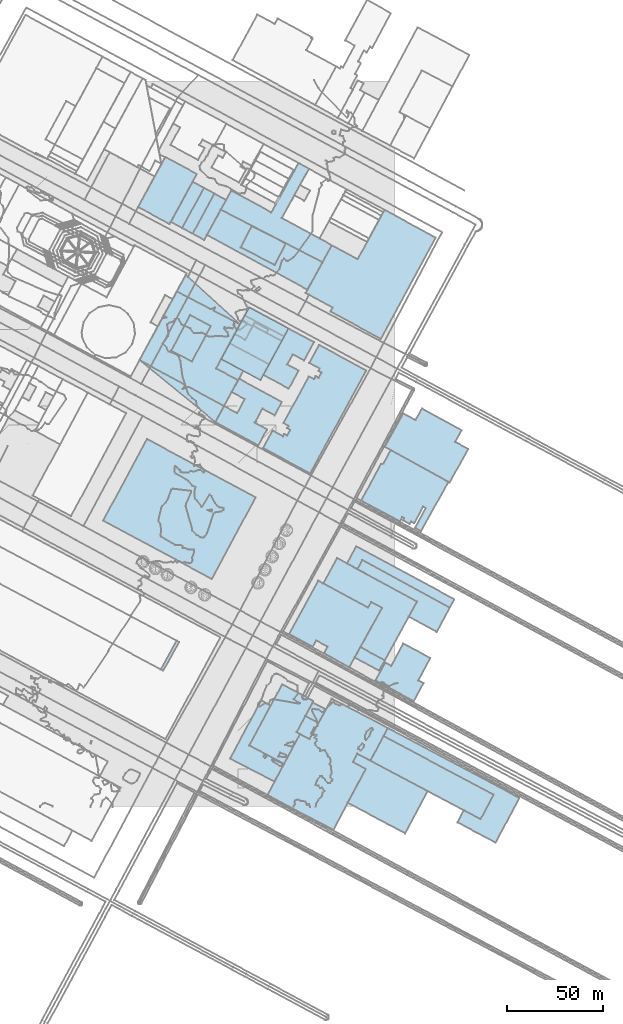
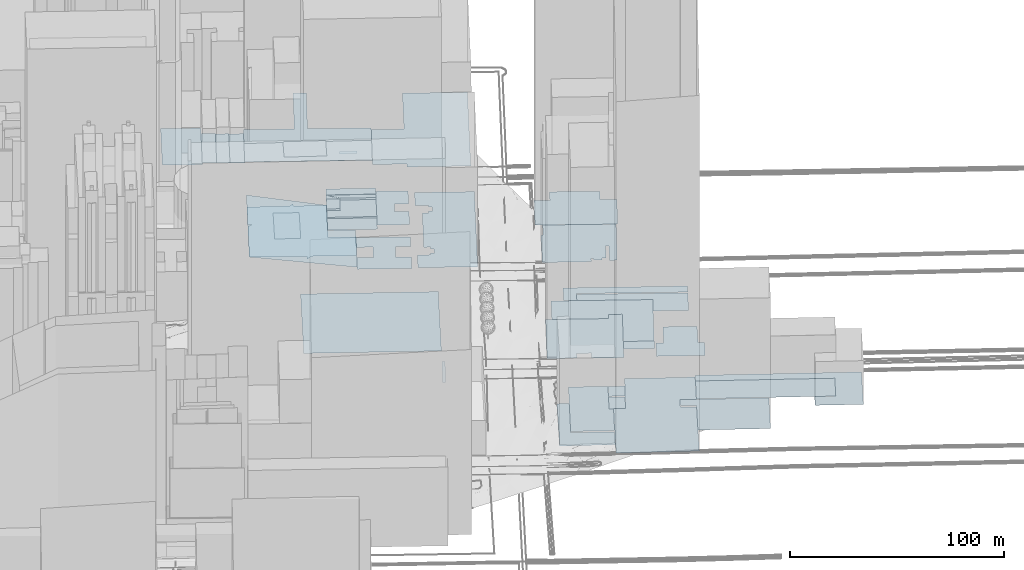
# Not in any storey, part 12 of 76: 39 footings.
"""IFC2X3 model written with IfcOpenShell, lengths in metres."""

from ifc_helpers import new_model, si_unit, frame, origin_with_axes, place, context, subcontext, project, faceted_brep, element, save


model = new_model("IFC2X3")

# Units and contexts
model_context = context("Model", 3, precision=1e-05, world=origin_with_axes())
body_context = subcontext(model_context, "Body", "Model", "MODEL_VIEW")
ifc_project = project(units=[si_unit("AREAUNIT", "SQUARE_METRE"), si_unit("LENGTHUNIT", "METRE")], contexts=[model_context])

# Footings
footing_1_placement = place(None, frame((366.2645429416, 36.6542156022, 20.5453743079), z_axis=(0.0, 0.0, 1.0), x_axis=(1.0, 0.0, 0.0)))
element("IfcFooting", 1, at=footing_1_placement, Name="Sol 0", PredefinedType="STRIP_FOOTING", context=body_context, shape_type="Brep", body=[
    faceted_brep([(57.6510256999, -30.6476367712, 0.0), (0.0, 0.0, 0.0), (2.2468139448, 4.2339315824, 0.0), (38.741565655, -45.1344526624, 0.0), (41.9344578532, -38.7800531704, 0.0), (50.7770092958, -43.4731624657, 0.0), (71.0847208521, -32.3451003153, 0.0), (58.6609342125, -55.7269742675, 0.0)], [[[0, 1, 2]], [[3, 4, 5]], [[0, 2, 6]], [[7, 3, 5]], [[0, 6, 7]], [[7, 5, 0]]]),
])
footing_2_placement = place(None, frame((351.223740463, 77.768312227, 19.2455414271), z_axis=(0.0, 0.0, 1.0), x_axis=(1.0, 0.0, 0.0)))
element("IfcFooting", 2, at=footing_2_placement, Name="Sol 0", PredefinedType="STRIP_FOOTING", context=body_context, shape_type="Brep", body=[
    faceted_brep([(12.6918312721, -6.868784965, 0.0), (0.0, 0.0, 0.0), (2.9670376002, 5.4524630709, 0.0), (15.6589919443, -1.4274175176, 0.0)], [[[0, 1, 2]], [[2, 3, 0]]]),
])
footing_3_placement = place(None, frame((362.0676322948, 65.7598579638, 18.6080020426), z_axis=(0.0, 0.0, 1.0), x_axis=(1.0, 0.0, 0.0)))
element("IfcFooting", 3, at=footing_3_placement, Name="Sol 0", PredefinedType="STRIP_FOOTING", context=body_context, shape_type="Brep", body=[
    faceted_brep([(20.0566144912, -10.8019749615, 0.0), (0.0, 0.0, 0.0), (5.0818940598, 9.4184075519, 0.0), (22.3613697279, 0.0495845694, 0.0), (25.0968062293, -1.4284483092, 0.0), (14.5135056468, 19.3648949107, 0.0), (28.6575999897, 11.7470203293, 0.0), (8.2419351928, 7.7232700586, 0.0)], [[[0, 1, 2]], [[3, 4, 0]], [[5, 6, 3]], [[0, 2, 7]], [[5, 3, 0]], [[0, 7, 5]]]),
])
footing_4_placement = place(None, frame((347.1381641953, 127.0369642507, 18.5508047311), z_axis=(0.0, 0.0, 1.0), x_axis=(1.0, 0.0, 0.0)))
element("IfcFooting", 4, at=footing_4_placement, Name="Sol 0", PredefinedType="STRIP_FOOTING", context=body_context, shape_type="Brep", body=[
    faceted_brep([(5.3954967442, -3.0124802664, 0.0), (0.0, 0.0, 0.0), (4.9095321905, 8.9945052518, 0.0), (56.1693942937, -18.7523097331, 0.0), (53.8061372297, -23.131939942, 0.0), (8.0571999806, 1.8369054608, 0.0)], [[[0, 1, 2]], [[3, 4, 5]], [[5, 0, 2]], [[2, 3, 5]]]),
])
footing_5_placement = place(None, frame((352.5336609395, 124.0244839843, 18.1637870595), z_axis=(0.0, 0.0, 1.0), x_axis=(1.0, 0.0, 0.0)))
element("IfcFooting", 5, at=footing_5_placement, Name="Sol 0", PredefinedType="STRIP_FOOTING", context=body_context, shape_type="Brep", body=[
    faceted_brep([(31.2631371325, -16.9997120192, 0.0), (0.0, 0.0, 0.0), (2.6617032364, 4.8493857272, 0.0), (41.5765562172, -32.7446614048, 0.0), (26.9895697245, -24.7877841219, 0.0), (48.4106404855, -20.1194596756, 0.0)], [[[0, 1, 2]], [[3, 4, 0]], [[0, 2, 5]], [[5, 3, 0]]]),
])
footing_6_placement = place(None, frame((334.7408311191, 116.6007819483, 18.3898649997), z_axis=(0.0, 0.0, 1.0), x_axis=(1.0, 0.0, 0.0)))
element("IfcFooting", 6, at=footing_6_placement, Name="Sol 0", PredefinedType="STRIP_FOOTING", context=body_context, shape_type="Brep", body=[
    faceted_brep([(23.4383723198, -12.7055475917, 0.0), (0.0, 0.0, 0.0), (7.2237486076, 13.24030801, 0.0), (32.1419012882, -40.259887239, 0.0), (19.4499469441, -33.3800066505, 0.0), (30.6991136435, -12.7874983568, 0.0), (25.0583062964, -9.7334756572, 0.0), (49.0559669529, -9.5760099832, 0.0)], [[[0, 1, 2]], [[3, 4, 5]], [[6, 0, 2]], [[7, 3, 5]], [[6, 2, 7]], [[7, 5, 6]]]),
])
footing_7_placement = place(None, frame((316.8661601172, 90.1024902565, 18.3898649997), z_axis=(0.0, 0.0, 1.0), x_axis=(1.0, 0.0, 0.0)))
element("IfcFooting", 7, at=footing_7_placement, Name="Sol 0", PredefinedType="STRIP_FOOTING", context=body_context, shape_type="Brep", body=[
    faceted_brep([(12.2588560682, -6.6629415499, 0.0), (0.0, 0.0, 0.0), (15.300279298, 27.9227073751, 0.0), (31.5123618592, -17.3744372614, 0.0), (18.1999973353, -10.1353758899, 0.0), (20.1343500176, -6.6156371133, 0.0), (42.9329772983, 16.7648160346, 0.0), (48.5737846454, 13.710793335, 0.0), (14.07724135, -3.3332932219, 0.0), (41.3130433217, 13.7927441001, 0.0)], [[[0, 1, 2]], [[3, 4, 5]], [[6, 7, 3]], [[8, 0, 2]], [[9, 6, 3]], [[8, 2, 9]], [[9, 3, 5]], [[5, 8, 9]]]),
])
footing_8_placement = place(None, frame((325.3175902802, 47.212952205, 19.8238031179), z_axis=(0.0, 0.0, 1.0), x_axis=(1.0, 0.0, 0.0)))
element("IfcFooting", 8, at=footing_8_placement, Name="Sol 0", PredefinedType="STRIP_FOOTING", context=body_context, shape_type="Brep", body=[
    faceted_brep([(6.8126112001, -3.6399257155, 0.0), (0.0, 0.0, 0.0), (3.893923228, 7.050867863, 0.0), (10.7830119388, 3.3674274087, 0.0)], [[[0, 1, 2]], [[2, 3, 0]]]),
])
footing_9_placement = place(None, frame((320.7317155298, 38.6885317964, 19.3320157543), z_axis=(0.0, 0.0, 1.0), x_axis=(1.0, 0.0, 0.0)))
element("IfcFooting", 9, at=footing_9_placement, Name="Sol 0", PredefinedType="STRIP_FOOTING", context=body_context, shape_type="Brep", body=[
    faceted_brep([(6.8210570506, -3.6398316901, 0.0), (0.0, 0.0, 0.0), (4.5858747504, 8.5244204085, 0.0), (11.3984859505, 4.884494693, 0.0)], [[[0, 1, 2]], [[2, 3, 0]]]),
])
footing_10_placement = place(None, frame((295.9848400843, 31.8056900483, 19.3320157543), z_axis=(0.0, 0.0, 1.0), x_axis=(1.0, 0.0, 0.0)))
element("IfcFooting", 10, at=footing_10_placement, Name="Sol 0", PredefinedType="STRIP_FOOTING", context=body_context, shape_type="Brep", body=[
    faceted_brep([(18.152605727, -9.6807885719, 0.0), (0.0, 0.0, 0.0), (17.2118998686, 31.9639296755, 0.0), (24.7468754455, 6.8828417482, 0.0), (26.5646548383, 5.9159065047, 0.0), (33.5466758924, 23.2501167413, 0.0)], [[[0, 1, 2]], [[3, 4, 0]], [[2, 5, 3]], [[3, 0, 2]]]),
])
footing_11_placement = place(None, frame((286.0454970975, 24.8510106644, 18.703520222), z_axis=(0.0, 0.0, 1.0), x_axis=(1.0, 0.0, 0.0)))
element("IfcFooting", 11, at=footing_11_placement, Name="Sol 0", PredefinedType="STRIP_FOOTING", context=body_context, shape_type="Brep", body=[
    faceted_brep([(28.0919487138, -2.7261091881, 0.0), (23.1269540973, -12.0431954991, 0.0), (0.0, 0.0, 0.0), (16.1055235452, 30.5632428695, 0.0), (21.1440946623, 27.7575168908, 0.0), (9.9393429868, 6.9546793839, 0.0)], [[[0, 1, 2]], [[3, 4, 5]], [[5, 0, 2]], [[2, 3, 5]]]),
])
footing_12_placement = place(None, frame((305.3985923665, 5.5918232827, 19.5472220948), z_axis=(0.0, 0.0, 1.0), x_axis=(1.0, 0.0, 0.0)))
element("IfcFooting", 12, at=footing_12_placement, Name="Sol 0", PredefinedType="STRIP_FOOTING", context=body_context, shape_type="Brep", body=[
    faceted_brep([(34.6180123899, -17.9933581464, 0.0), (0.0, 0.0, 0.0), (17.1509025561, 32.1297732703, 0.0), (44.841101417, 17.5086047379, 0.0), (51.5516846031, 13.93412623, 0.0), (63.1127645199, 35.296323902, 0.0), (53.9919956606, 18.2258198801, 0.0), (47.1626007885, 21.8544235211, 0.0), (22.1541802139, 29.4568768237, 0.0), (33.8269836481, 50.6537947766, 0.0)], [[[0, 1, 2]], [[3, 4, 0]], [[5, 6, 7]], [[8, 9, 5]], [[0, 2, 8]], [[8, 5, 7]], [[3, 0, 8]], [[8, 7, 3]]]),
])
footing_13_placement = place(None, frame((347.4572556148, 1.796092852, 20.3614833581), z_axis=(0.0, 0.0, 1.0), x_axis=(1.0, 0.0, 0.0)))
element("IfcFooting", 13, at=footing_13_placement, Name="Sol 0", PredefinedType="STRIP_FOOTING", context=body_context, shape_type="Brep", body=[
    faceted_brep([(30.0699170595, -15.9811361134, 0.0), (0.0, 0.0, 0.0), (9.4930213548, 17.7298566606, 0.0), (5.1039375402, 25.6501539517, 0.0), (41.8928147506, 6.0946882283, 0.0), (2.7824381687, 21.3043351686, 0.0)], [[[0, 1, 2]], [[3, 4, 0]], [[2, 5, 3]], [[3, 0, 2]]]),
])
footing_14_placement = place(None, frame((359.3905880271, 23.8176431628, 20.6359845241), z_axis=(0.0, 0.0, 1.0), x_axis=(1.0, 0.0, 0.0)))
element("IfcFooting", 14, at=footing_14_placement, Name="Sol 0", PredefinedType="STRIP_FOOTING", context=body_context, shape_type="Brep", body=[
    faceted_brep([(57.6509642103, -30.6365900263, 0.0), (0.0, 0.0, 0.0), (6.8739549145, 12.8365724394, 0.0), (64.5249806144, -17.8110643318, 0.0)], [[[0, 1, 2]], [[2, 3, 0]]]),
])
footing_15_placement = place(None, frame((249.6836035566, 71.5902685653, 39.4467245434), z_axis=(0.0, 0.0, 1.0), x_axis=(1.0, 0.0, 0.0)))
element("IfcFooting", 15, at=footing_15_placement, Name="Sol 0", PredefinedType="STRIP_FOOTING", context=body_context, shape_type="Brep", body=[
    faceted_brep([(1.2910926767, -0.6844212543, 0.0), (0.0, 0.0, 0.0), (8.3176822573, 15.0071034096, 0.0), (9.6089023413, 14.3115828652, 0.0)], [[[0, 1, 2]], [[2, 3, 0]]]),
])
footing_16_placement = place(None, frame((219.5112298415, 149.4213804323, 19.4237571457), z_axis=(0.0, 0.0, 1.0), x_axis=(1.0, 0.0, 0.0)))
element("IfcFooting", 16, at=footing_16_placement, Name="Sol 0", PredefinedType="STRIP_FOOTING", context=body_context, shape_type="Brep", body=[
    faceted_brep([(56.8882083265, -30.5132920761, 0.0), (0.0, 0.0, 0.0), (22.9281798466, 42.7328309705, 0.0), (79.8162954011, 12.2086158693, 0.0)], [[[0, 1, 2]], [[2, 3, 0]]]),
])
footing_17_placement = place(None, frame((238.5657352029, 233.4317503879, 16.8303387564), z_axis=(0.0, 0.0, 1.0), x_axis=(1.0, 0.0, 0.0)))
element("IfcFooting", 17, at=footing_17_placement, Name="Sol 0", PredefinedType="STRIP_FOOTING", context=body_context, shape_type="Brep", body=[
    faceted_brep([(39.6892356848, -32.423071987, 0.0), (0.0, 0.0, 0.0), (24.1716147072, 44.6569637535, 0.0), (42.7234641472, 0.6192596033, 0.0), (54.2336192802, -5.5639508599, 0.0), (52.5160379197, 18.7078011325, 0.0)], [[[0, 1, 2]], [[3, 4, 0]], [[2, 5, 3]], [[3, 0, 2]]]),
])
footing_18_placement = place(None, frame((238.5657352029, 233.4317503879, 16.8288003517), z_axis=(0.0, 0.0, 1.0), x_axis=(1.0, 0.0, 0.0)))
element("IfcFooting", 18, at=footing_18_placement, Name="Sol 0", PredefinedType="STRIP_FOOTING", context=body_context, shape_type="Brep", body=[
    faceted_brep([(23.8036133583, -12.9458392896, 0.0), (0.0, 0.0, 0.0), (11.841957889, 21.887094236, 0.0), (25.6386092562, -13.9458941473, 0.0), (22.5444502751, -15.0033068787, 0.0), (51.6324175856, -10.5347354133, 0.0), (44.2262175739, -24.0546749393, 0.0), (38.7491765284, 25.8639517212, 0.0), (52.5160379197, 18.7078011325, 0.0), (40.0549929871, -4.3745082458, 0.0), (37.0929847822, 26.7328570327, 0.0), (39.5570742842, 27.5275912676, 0.0), (12.610114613, 23.3393253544, 0.0), (19.5537404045, 35.9878752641, 0.0), (14.2581221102, 22.4481148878, 0.0)], [[[0, 1, 2]], [[3, 4, 0]], [[5, 6, 3]], [[7, 8, 9]], [[10, 11, 7]], [[12, 13, 10]], [[0, 2, 14]], [[5, 3, 0]], [[10, 7, 9]], [[14, 12, 10]], [[9, 5, 0]], [[14, 10, 9]], [[9, 0, 14]]]),
])
footing_19_placement = place(None, frame((255.1464477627, 238.3653204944, 18.4349327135), z_axis=(0.0, 0.0, 1.0), x_axis=(1.0, 0.0, 0.0)))
element("IfcFooting", 19, at=footing_19_placement, Name="Sol 0", PredefinedType="STRIP_FOOTING", context=body_context, shape_type="Brep", body=[
    faceted_brep([(10.8206467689, -5.6916724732, 0.0), (0.0, 0.0, 0.0), (9.8708329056, 18.6223246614, 0.0), (20.6914610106, 12.9306667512, 0.0)], [[[0, 1, 2]], [[2, 3, 0]]]),
])
footing_20_placement = place(None, frame((281.2891993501, 234.0510099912, 16.9743140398), z_axis=(0.0, 0.0, 1.0), x_axis=(1.0, 0.0, 0.0)))
element("IfcFooting", 20, at=footing_20_placement, Name="Sol 0", PredefinedType="STRIP_FOOTING", context=body_context, shape_type="Brep", body=[
    faceted_brep([(20.548297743, -11.0296043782, 0.0), (0.0, 0.0, 0.0), (4.43774046, 8.1896087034, 0.0), (24.9775825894, -2.8400815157, 0.0)], [[[0, 1, 2]], [[2, 3, 0]]]),
])
footing_21_placement = place(None, frame((288.3298169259, 247.0670920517, 18.7313016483), z_axis=(0.0, 0.0, 1.0), x_axis=(1.0, 0.0, 0.0)))
element("IfcFooting", 21, at=footing_21_placement, Name="Sol 0", PredefinedType="STRIP_FOOTING", context=body_context, shape_type="Brep", body=[
    faceted_brep([(5.5893839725, -2.9991613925, 0.0), (0.0, 0.0, 0.0), (3.7847676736, 6.9940706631, 0.0), (9.3741480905, 3.9949121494, 0.0)], [[[0, 1, 2]], [[2, 3, 0]]]),
])
footing_22_placement = place(None, frame((266.3530254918, 299.6136626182, 20.7337095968), z_axis=(0.0, 0.0, 1.0), x_axis=(1.0, 0.0, 0.0)))
element("IfcFooting", 22, at=footing_22_placement, Name="Sol 0", PredefinedType="STRIP_FOOTING", context=body_context, shape_type="Brep", body=[
    faceted_brep([(6.0824874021, -3.3043014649, 0.0), (0.0, 0.0, 0.0), (11.3880168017, 20.9825795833, 0.0), (17.4959425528, 17.6674815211, 0.0)], [[[0, 1, 2]], [[2, 3, 0]]]),
])
footing_23_placement = place(None, frame((273.8050706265, 299.0342517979, 19.0727612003), z_axis=(0.0, 0.0, 1.0), x_axis=(1.0, 0.0, 0.0)))
element("IfcFooting", 23, at=footing_23_placement, Name="Sol 0", PredefinedType="STRIP_FOOTING", context=body_context, shape_type="Brep", body=[
    faceted_brep([(52.5953372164, -28.7420789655, 0.0), (0.0, 0.0, 0.0), (12.77205858, 23.1858472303, 0.0), (39.2593969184, 8.8281193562, 0.0), (65.4084536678, -5.4668426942, 0.0), (47.9405768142, 37.5286335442, 0.0), (53.4200569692, 34.5393207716, 0.0), (33.7387369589, 11.728145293, 0.0)], [[[0, 1, 2]], [[3, 4, 0]], [[5, 6, 3]], [[0, 2, 7]], [[7, 5, 3]], [[3, 0, 7]]]),
])
footing_24_placement = place(None, frame((291.481800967, 292.4676192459, 19.6985343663), z_axis=(0.0, 0.0, 1.0), x_axis=(1.0, 0.0, 0.0)))
element("IfcFooting", 24, at=footing_24_placement, Name="Sol 0", PredefinedType="STRIP_FOOTING", context=body_context, shape_type="Brep", body=[
    faceted_brep([(17.8254281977, -9.1849936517, 0.0), (0.0, 0.0, 0.0), (5.7876459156, 11.1474308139, 0.0), (23.6378591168, 2.0071491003, 0.0)], [[[0, 1, 2]], [[2, 3, 0]]]),
])
footing_25_placement = place(None, frame((273.8050706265, 299.0342517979, 19.1231456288), z_axis=(0.0, 0.0, 1.0), x_axis=(1.0, 0.0, 0.0)))
element("IfcFooting", 25, at=footing_25_placement, Name="Sol 0", PredefinedType="STRIP_FOOTING", context=body_context, shape_type="Brep", body=[
    faceted_brep([(52.5953372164, -28.7420789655, 0.0), (0.0, 0.0, 0.0), (7.2580721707, 13.1851425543, 0.0), (60.4982423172, -14.3947384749, 0.0)], [[[0, 1, 2]], [[2, 3, 0]]]),
])
footing_26_placement = place(None, frame((325.5761584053, 268.583928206, 18.0179124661), z_axis=(0.0, 0.0, 1.0), x_axis=(1.0, 0.0, 0.0)))
element("IfcFooting", 26, at=footing_26_placement, Name="Sol 0", PredefinedType="STRIP_FOOTING", context=body_context, shape_type="Brep", body=[
    faceted_brep([(14.076432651, -7.6409558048, 0.0), (0.0, 0.0, 0.0), (13.637365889, 24.9834808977, 0.0), (39.2536749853, -24.0010695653, 0.0), (12.9441609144, -9.7191640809, 0.0), (41.1936839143, 43.5121951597, 0.0), (68.012848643, 28.9476731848, 0.0), (27.1697109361, 17.669281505, 0.0)], [[[0, 1, 2]], [[3, 4, 0]], [[5, 6, 3]], [[0, 2, 7]], [[5, 3, 0]], [[0, 7, 5]]]),
])
footing_27_placement = place(None, frame((297.9268132, 251.4975866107, 44.1625825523), z_axis=(0.0, 0.0, 1.0), x_axis=(1.0, 0.0, 0.0)))
element("IfcFooting", 27, at=footing_27_placement, Name="Sol 0", PredefinedType="STRIP_FOOTING", context=body_context, shape_type="Brep", body=[
    faceted_brep([(7.1354708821, -3.8360285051, 0.0), (0.0, 0.0, 0.0), (0.933852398, 1.7206194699, 0.0), (8.0608818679, -2.115506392, 0.0)], [[[0, 1, 2]], [[2, 3, 0]]]),
])
footing_28_placement = place(None, frame((293.6269824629, 256.8432308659, 18.9579737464), z_axis=(0.0, 0.0, 1.0), x_axis=(1.0, 0.0, 0.0)))
element("IfcFooting", 28, at=footing_28_placement, Name="Sol 0", PredefinedType="STRIP_FOOTING", context=body_context, shape_type="Brep", body=[
    faceted_brep([(20.5398148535, -11.0296681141, 0.0), (0.0, 0.0, 0.0), (2.2972956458, 4.2456016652, 0.0), (22.8372318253, -6.7951607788, 0.0)], [[[0, 1, 2]], [[2, 3, 0]]]),
])
footing_29_placement = place(None, frame((292.1145845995, 254.0611627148, 18.8063007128), z_axis=(0.0, 0.0, 1.0), x_axis=(1.0, 0.0, 0.0)))
element("IfcFooting", 29, at=footing_29_placement, Name="Sol 0", PredefinedType="STRIP_FOOTING", context=body_context, shape_type="Brep", body=[
    faceted_brep([(5.5893804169, -2.9991585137, 0.0), (0.0, 0.0, 0.0), (1.5123978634, 2.782068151, 0.0), (22.0522127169, -8.2475999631, 0.0), (20.7796774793, -10.6049936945, 0.0), (5.8122286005, -2.5635761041, 0.0)], [[[0, 1, 2]], [[3, 4, 5]], [[5, 0, 2]], [[2, 3, 5]]]),
])
footing_30_placement = place(None, frame((285.7269398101, 242.2406186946, 17.7274277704), z_axis=(0.0, 0.0, 1.0), x_axis=(1.0, 0.0, 0.0)))
element("IfcFooting", 30, at=footing_30_placement, Name="Sol 0", PredefinedType="STRIP_FOOTING", context=body_context, shape_type="Brep", body=[
    faceted_brep([(20.5398421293, -11.0296902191, 0.0), (0.0, 0.0, 0.0), (2.6028771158, 4.8264733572, 0.0), (12.1998733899, 9.2569679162, 0.0), (27.1673222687, 1.2155503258, 0.0), (8.1922610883, 1.8273119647, 0.0)], [[[0, 1, 2]], [[3, 4, 0]], [[0, 2, 5]], [[5, 3, 0]]]),
])
footing_31_placement = place(None, frame((281.2891993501, 234.0510099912, 16.9743140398), z_axis=(0.0, 0.0, 1.0), x_axis=(1.0, 0.0, 0.0)))
element("IfcFooting", 31, at=footing_31_placement, Name="Sol 0", PredefinedType="STRIP_FOOTING", context=body_context, shape_type="Brep", body=[
    faceted_brep([(20.548297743, -11.0296043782, 0.0), (0.0, 0.0, 0.0), (14.6350787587, 27.0378225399, 0.0), (35.1750149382, 15.9970600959, 0.0)], [[[0, 1, 2]], [[2, 3, 0]]]),
])
footing_32_placement = place(None, frame((303.3084719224, 225.7363797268, 17.1584864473), z_axis=(0.0, 0.0, 1.0), x_axis=(1.0, 0.0, 0.0)))
element("IfcFooting", 32, at=footing_32_placement, Name="Sol 0", PredefinedType="STRIP_FOOTING", context=body_context, shape_type="Brep", body=[
    faceted_brep([(18.4944225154, 2.2470477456, 0.0), (13.3627175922, -7.2385258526, 0.0), (0.0, 0.0, 0.0), (26.5521917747, 17.0735816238, 0.0), (21.3872638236, 7.5432057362, 0.0), (15.4662305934, 10.7494256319, 0.0), (12.598836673, 5.4424640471, 0.0), (13.1557423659, 24.3116903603, 0.0)], [[[0, 1, 2]], [[3, 4, 5]], [[6, 0, 2]], [[7, 3, 5]], [[6, 2, 7]], [[7, 5, 6]]]),
])
footing_33_placement = place(None, frame((278.2549708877, 201.0086784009, 15.6757471), z_axis=(0.0, 0.0, 1.0), x_axis=(1.0, 0.0, 0.0)))
element("IfcFooting", 33, at=footing_33_placement, Name="Sol 0", PredefinedType="STRIP_FOOTING", context=body_context, shape_type="Brep", body=[
    faceted_brep([(22.4777859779, -12.1617877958, 0.0), (0.0, 0.0, 0.0), (4.536981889, 8.3683970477, 0.0), (20.6180660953, -0.3373262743, 0.0), (27.0063104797, -3.7934751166, 0.0), (34.7826050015, 10.5634660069, 0.0), (30.9978335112, 3.5693851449, 0.0), (24.609593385, 7.0255305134, 0.0), (8.5200795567, 15.7311468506, 0.0), (12.3131764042, 22.7364151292, 0.0), (11.3669518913, 4.6731266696, 0.0), (15.3500450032, 12.0358801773, 0.0)], [[[0, 1, 2]], [[3, 4, 0]], [[5, 6, 7]], [[8, 9, 5]], [[0, 2, 10]], [[11, 8, 5]], [[0, 10, 11]], [[11, 5, 7]], [[3, 0, 11]], [[11, 7, 3]]]),
])
footing_34_placement = place(None, frame((303.2307671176, 187.4548822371, 16.0810150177), z_axis=(0.0, 0.0, 1.0), x_axis=(1.0, 0.0, 0.0)))
element("IfcFooting", 34, at=footing_34_placement, Name="Sol 0", PredefinedType="STRIP_FOOTING", context=body_context, shape_type="Brep", body=[
    faceted_brep([(24.6276355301, -13.3690300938, 0.0), (0.0, 0.0, 0.0), (4.9585038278, 9.1393762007, 0.0), (24.1811245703, 44.5462660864, 0.0), (29.2885192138, 53.9427467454, 0.0), (53.9161640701, 40.5627141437, 0.0), (30.5208380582, 39.4575443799, 0.0), (28.9577343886, 40.3053169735, 0.0), (29.6519839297, 41.5790599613, 0.0), (26.6272039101, 36.0149079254, 0.0), (27.4866411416, 37.6014376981, 0.0), (29.0497451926, 36.7536647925, 0.0), (10.6788082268, 13.0251545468, 0.0), (23.9513070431, 37.4603469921, 0.0), (14.2400565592, 9.4916920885, 0.0), (12.6853890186, 10.3395664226, 0.0), (13.3548402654, 11.5686098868, 0.0), (10.4549602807, 6.1502490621, 0.0), (11.140776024, 7.4238918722, 0.0), (12.6699936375, 6.5868231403, 0.0)], [[[0, 1, 2]], [[3, 4, 5]], [[6, 7, 8]], [[9, 10, 11]], [[12, 13, 9]], [[14, 15, 16]], [[17, 18, 19]], [[0, 2, 17]], [[8, 3, 5]], [[12, 9, 11]], [[0, 17, 19]], [[6, 8, 5]], [[16, 12, 11]], [[0, 19, 14]], [[6, 5, 0]], [[14, 16, 11]], [[6, 0, 14]], [[14, 11, 6]]]),
])
footing_35_placement = place(None, frame((354.5806057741, 159.9086306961, 17.7443665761), z_axis=(0.0, 0.0, 1.0), x_axis=(1.0, 0.0, 0.0)))
element("IfcFooting", 35, at=footing_35_placement, Name="Sol 0", PredefinedType="STRIP_FOOTING", context=body_context, shape_type="Brep", body=[
    faceted_brep([(20.2430773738, -10.8886351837, 0.0), (0.0, 0.0, 0.0), (10.3118314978, 19.1605049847, 0.0), (25.339599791, -12.150421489, 0.0), (21.8992428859, -10.3031231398, 0.0), (22.5353152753, -9.1077698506, 0.0), (32.40982227, -3.1307145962, 0.0), (27.7331858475, -11.8227699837, 0.0), (26.0172271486, -10.8990723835, 0.0), (31.3347213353, -15.9108444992, 0.0), (28.183275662, -14.2267162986, 0.0), (33.7605140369, -3.8588264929, 0.0), (11.6676290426, 19.4427545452, 0.0), (15.4436623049, 26.458968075, 0.0), (45.6136333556, 9.8018659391, 0.0), (21.4989884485, -8.5536292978, 0.0)], [[[0, 1, 2]], [[3, 4, 5]], [[6, 7, 8]], [[9, 10, 11]], [[12, 13, 14]], [[0, 2, 12]], [[8, 3, 5]], [[14, 9, 11]], [[15, 0, 12]], [[8, 5, 15]], [[14, 11, 6]], [[15, 12, 14]], [[6, 8, 15]], [[15, 14, 6]]]),
])
footing_36_placement = place(None, frame((366.8637568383, 188.1071389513, 17.7938249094), z_axis=(0.0, 0.0, 1.0), x_axis=(1.0, 0.0, 0.0)))
element("IfcFooting", 36, at=footing_36_placement, Name="Sol 0", PredefinedType="STRIP_FOOTING", context=body_context, shape_type="Brep", body=[
    faceted_brep([(33.9506416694, -18.7335846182, 0.0), (0.0, 0.0, 0.0), (9.6986507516, 17.4436317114, 0.0), (36.8338707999, 2.5941615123, 0.0), (43.7072874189, -1.2004133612, 0.0), (19.4860618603, 20.0223811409, 0.0), (40.1741687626, 8.6061127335, 0.0), (16.0878345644, 13.9098440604, 0.0)], [[[0, 1, 2]], [[3, 4, 0]], [[5, 6, 3]], [[0, 2, 7]], [[5, 3, 0]], [[0, 7, 5]]]),
])
footing_37_placement = place(None, frame((237.8104708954, 313.5923738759, 21.0660999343), z_axis=(0.0, 0.0, 1.0), x_axis=(1.0, 0.0, 0.0)))
element("IfcFooting", 37, at=footing_37_placement, Name="Sol 0", PredefinedType="STRIP_FOOTING", context=body_context, shape_type="Brep", body=[
    faceted_brep([(16.4722872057, -8.9788194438, 0.0), (0.0, 0.0, 0.0), (14.205605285, 26.2222779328, 0.0), (30.7199253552, 17.2550822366, 0.0)], [[[0, 1, 2]], [[2, 3, 0]]]),
])
footing_38_placement = place(None, frame((254.9357161, 305.8090938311, 21.0647084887), z_axis=(0.0, 0.0, 1.0), x_axis=(1.0, 0.0, 0.0)))
element("IfcFooting", 38, at=footing_38_placement, Name="Sol 0", PredefinedType="STRIP_FOOTING", context=body_context, shape_type="Brep", body=[
    faceted_brep([(5.9380887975, -3.2282750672, 0.0), (0.0, 0.0, 0.0), (11.3880384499, 20.9825618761, 0.0), (17.3345562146, 17.7543942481, 0.0)], [[[0, 1, 2]], [[2, 3, 0]]]),
])
footing_39_placement = place(None, frame((260.8738048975, 302.5808187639, 20.8605523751), z_axis=(0.0, 0.0, 1.0), x_axis=(1.0, 0.0, 0.0)))
element("IfcFooting", 39, at=footing_39_placement, Name="Sol 0", PredefinedType="STRIP_FOOTING", context=body_context, shape_type="Brep", body=[
    faceted_brep([(5.4792205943, -2.9671561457, 0.0), (0.0, 0.0, 0.0), (11.3964674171, 20.9826693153, 0.0), (16.867237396, 18.0154234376, 0.0)], [[[0, 1, 2]], [[2, 3, 0]]]),
])

save(model, "model.ifc")
